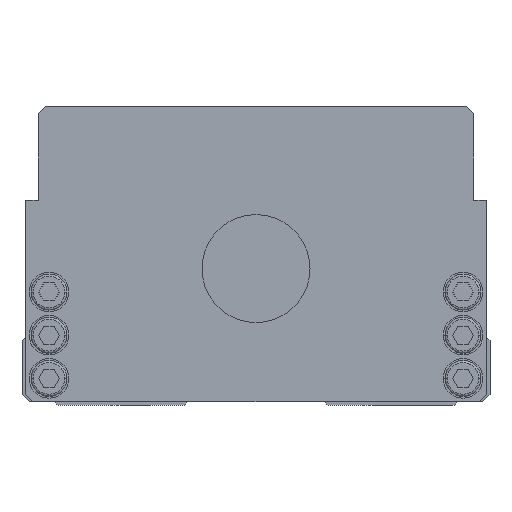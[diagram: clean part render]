
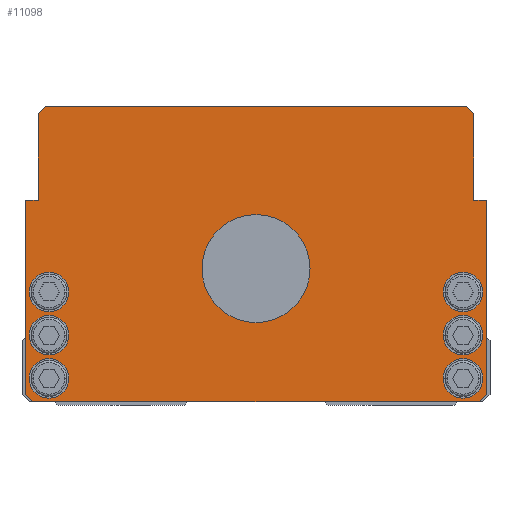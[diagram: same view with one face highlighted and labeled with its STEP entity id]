
A CAD part, front view. The second image highlights one B-rep face of the part: STEP entity #11098.
In plain terms, the highlighted planar face has unit normal (0, -1, 0).
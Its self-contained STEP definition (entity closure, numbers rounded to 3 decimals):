
#4006=VERTEX_POINT('',#11567);
#4216=VERTEX_POINT('',#11804);
#4302=VERTEX_POINT('',#11899);
#4490=VERTEX_POINT('',#12118);
#4580=VERTEX_POINT('',#12221);
#4584=EDGE_CURVE('',#8434,#6682,#12225,.T.);
#4960=EDGE_CURVE('',#8364,#7290,#12638,.T.);
#5350=VERTEX_POINT('',#13074);
#5560=VERTEX_POINT('',#13309);
#5668=EDGE_CURVE('',#7500,#4490,#13429,.T.);
#5854=VERTEX_POINT('',#13640);
#5900=EDGE_CURVE('',#4490,#7500,#13690,.T.);
#6070=EDGE_CURVE('',#6682,#8434,#13885,.T.);
#6076=EDGE_CURVE('',#7244,#6176,#13891,.T.);
#6176=VERTEX_POINT('',#14004);
#6224=VERTEX_POINT('',#14055);
#6258=EDGE_CURVE('',#4216,#5854,#14092,.T.);
#6324=VERTEX_POINT('',#14165);
#6340=EDGE_CURVE('',#6176,#5350,#14183,.T.);
#6426=VERTEX_POINT('',#14278);
#6682=VERTEX_POINT('',#14559);
#6960=VERTEX_POINT('',#14871);
#7244=VERTEX_POINT('',#15178);
#7290=VERTEX_POINT('',#15230);
#7366=EDGE_CURVE('',#6224,#7244,#15312,.T.);
#7390=VERTEX_POINT('',#15338);
#7500=VERTEX_POINT('',#15461);
#7596=EDGE_CURVE('',#5560,#9240,#15564,.T.);
#8236=VERTEX_POINT('',#16278);
#8310=VERTEX_POINT('',#16362);
#8364=VERTEX_POINT('',#16424);
#8374=VERTEX_POINT('',#16437);
#8434=VERTEX_POINT('',#16505);
#8660=EDGE_CURVE('',#9810,#6324,#16762,.T.);
#8930=EDGE_CURVE('',#6960,#7390,#17063,.T.);
#8986=EDGE_CURVE('',#5854,#4216,#17129,.T.);
#9082=EDGE_CURVE('',#4580,#4006,#17232,.T.);
#9106=VERTEX_POINT('',#17261);
#9140=EDGE_CURVE('',#9106,#6426,#17299,.T.);
#9240=VERTEX_POINT('',#17409);
#9296=EDGE_CURVE('',#4302,#8310,#17471,.T.);
#9560=EDGE_CURVE('',#8310,#9810,#17764,.T.);
#9808=EDGE_CURVE('',#7290,#8364,#18044,.T.);
#9810=VERTEX_POINT('',#18046);
#9838=EDGE_CURVE('',#5350,#9106,#18077,.T.);
#9904=EDGE_CURVE('',#6324,#6960,#18154,.T.);
#10130=EDGE_CURVE('',#7390,#6224,#18402,.T.);
#10856=EDGE_CURVE('',#8236,#8374,#19221,.T.);
#11098=ADVANCED_FACE('',(#19493,#19494,#19495,#19496,#19497,#19498,#19499,#19500),#19501,.T.);
#11174=EDGE_CURVE('',#4006,#4580,#19586,.T.);
#11202=EDGE_CURVE('',#9240,#5560,#19617,.T.);
#11280=EDGE_CURVE('',#6426,#4302,#19701,.T.);
#11298=EDGE_CURVE('',#8374,#8236,#19719,.T.);
#11567=CARTESIAN_POINT('',(63.0,0.0,7.5));
#11804=CARTESIAN_POINT('',(52.0,0.0,31.5));
#11899=CARTESIAN_POINT('',(58.5,0.0,83.0));
#12118=CARTESIAN_POINT('',(-63.0,0.0,19.5));
#12221=CARTESIAN_POINT('',(52.0,0.0,7.5));
#12225=CIRCLE('',#20955,5.5);
#12638=CIRCLE('',#21515,5.5);
#13074=CARTESIAN_POINT('',(-60.5,0.0,57.0));
#13309=CARTESIAN_POINT('',(-63.0,0.0,7.5));
#13429=CIRCLE('',#22588,5.5);
#13640=CARTESIAN_POINT('',(63.0,0.0,31.5));
#13690=CIRCLE('',#22956,5.5);
#13885=CIRCLE('',#23239,5.5);
#13891=LINE('',#23247,#23248);
#14004=CARTESIAN_POINT('',(-64.0,0.0,57.0));
#14055=CARTESIAN_POINT('',(-62.0,0.0,1.0));
#14092=CIRCLE('',#23521,5.5);
#14165=CARTESIAN_POINT('',(64.0,0.0,57.0));
#14183=LINE('',#23650,#23651);
#14278=CARTESIAN_POINT('',(-58.5,0.0,83.0));
#14559=CARTESIAN_POINT('',(63.0,0.0,19.5));
#14871=CARTESIAN_POINT('',(64.0,0.0,3.0));
#15178=CARTESIAN_POINT('',(-64.0,0.0,3.0));
#15230=CARTESIAN_POINT('',(-52.0,0.0,31.5));
#15312=LINE('',#25224,#25225);
#15338=CARTESIAN_POINT('',(62.0,0.0,1.0));
#15461=CARTESIAN_POINT('',(-52.0,0.0,19.5));
#15564=CIRCLE('',#25572,5.5);
#16278=CARTESIAN_POINT('',(15.0,0.0,38.0));
#16362=CARTESIAN_POINT('',(60.5,0.0,81.0));
#16424=CARTESIAN_POINT('',(-63.0,0.0,31.5));
#16437=CARTESIAN_POINT('',(-15.0,0.0,38.0));
#16505=CARTESIAN_POINT('',(52.0,0.0,19.5));
#16762=LINE('',#27199,#27200);
#17063=LINE('',#27608,#27609);
#17129=CIRCLE('',#27698,5.5);
#17232=CIRCLE('',#27850,5.5);
#17261=CARTESIAN_POINT('',(-60.5,0.0,81.0));
#17299=LINE('',#27942,#27943);
#17409=CARTESIAN_POINT('',(-52.0,0.0,7.5));
#17471=LINE('',#28180,#28181);
#17764=LINE('',#28573,#28574);
#18044=CIRCLE('',#28956,5.5);
#18046=CARTESIAN_POINT('',(60.5,0.0,57.0));
#18077=LINE('',#28995,#28996);
#18154=LINE('',#29099,#29100);
#18402=LINE('',#29453,#29454);
#19221=CIRCLE('',#30567,15.0);
#19493=FACE_BOUND('',#30944,.T.);
#19494=FACE_BOUND('',#30945,.T.);
#19495=FACE_BOUND('',#30946,.T.);
#19496=FACE_BOUND('',#30947,.T.);
#19497=FACE_BOUND('',#30948,.T.);
#19498=FACE_BOUND('',#30949,.T.);
#19499=FACE_BOUND('',#30950,.T.);
#19500=FACE_OUTER_BOUND('',#30951,.T.);
#19501=PLANE('',#30952);
#19586=CIRCLE('',#31070,5.5);
#19617=CIRCLE('',#31107,5.5);
#19701=LINE('',#31222,#31223);
#19719=CIRCLE('',#31256,15.0);
#20955=AXIS2_PLACEMENT_3D('',#32338,#32339,#32340);
#21515=AXIS2_PLACEMENT_3D('',#32762,#32763,#32764);
#22588=AXIS2_PLACEMENT_3D('',#33712,#33713,#33714);
#22956=AXIS2_PLACEMENT_3D('',#34005,#34006,#34007);
#23239=AXIS2_PLACEMENT_3D('',#34286,#34287,#34288);
#23247=CARTESIAN_POINT('',(-64.0,0.0,57.0));
#23248=VECTOR('',#34292,1.0);
#23521=AXIS2_PLACEMENT_3D('',#34504,#34505,#34506);
#23650=CARTESIAN_POINT('',(-60.5,0.0,57.0));
#23651=VECTOR('',#34601,1.0);
#25224=CARTESIAN_POINT('',(-64.0,0.0,3.0));
#25225=VECTOR('',#35807,1.);
#25572=AXIS2_PLACEMENT_3D('',#36096,#36097,#36098);
#27199=CARTESIAN_POINT('',(64.0,0.0,57.0));
#27200=VECTOR('',#37492,1.0);
#27608=CARTESIAN_POINT('',(62.0,0.0,1.0));
#27609=VECTOR('',#37824,1.);
#27698=AXIS2_PLACEMENT_3D('',#37932,#37933,#37934);
#27850=AXIS2_PLACEMENT_3D('',#38056,#38057,#38058);
#27942=CARTESIAN_POINT('',(-58.5,0.0,83.0));
#27943=VECTOR('',#38142,1.);
#28180=CARTESIAN_POINT('',(60.5,0.0,81.0));
#28181=VECTOR('',#38332,1.);
#28573=CARTESIAN_POINT('',(60.5,0.0,57.0));
#28574=VECTOR('',#38682,1.0);
#28956=AXIS2_PLACEMENT_3D('',#39000,#39001,#39002);
#28995=CARTESIAN_POINT('',(-60.5,0.0,81.0));
#28996=VECTOR('',#39030,1.0);
#29099=CARTESIAN_POINT('',(64.0,0.0,3.0));
#29100=VECTOR('',#39145,1.0);
#29453=CARTESIAN_POINT('',(-62.0,0.0,1.0));
#29454=VECTOR('',#39418,1.0);
#30567=AXIS2_PLACEMENT_3D('',#40397,#40398,#40399);
#30944=EDGE_LOOP('',(#40753,#40754));
#30945=EDGE_LOOP('',(#40755,#40756));
#30946=EDGE_LOOP('',(#40757,#40758));
#30947=EDGE_LOOP('',(#40759,#40760));
#30948=EDGE_LOOP('',(#40761,#40762));
#30949=EDGE_LOOP('',(#40763,#40764));
#30950=EDGE_LOOP('',(#40765,#40766));
#30951=EDGE_LOOP('',(#40767,#40768,#40769,#40770,#40771,#40772,#40773,#40774,#40775,#40776,#40777,#40778));
#30952=AXIS2_PLACEMENT_3D('',#40779,#40780,#40781);
#31070=AXIS2_PLACEMENT_3D('',#40894,#40895,#40896);
#31107=AXIS2_PLACEMENT_3D('',#40926,#40927,#40928);
#31222=CARTESIAN_POINT('',(58.5,0.0,83.0));
#31223=VECTOR('',#40996,1.0);
#31256=AXIS2_PLACEMENT_3D('',#41004,#41005,#41006);
#32338=CARTESIAN_POINT('',(57.5,0.0,19.5));
#32339=DIRECTION('',(-0.0,1.0,0.0));
#32340=DIRECTION('',(1.0,0.0,0.0));
#32762=CARTESIAN_POINT('',(-57.5,0.0,31.5));
#32763=DIRECTION('',(-0.0,1.0,0.0));
#32764=DIRECTION('',(1.0,0.0,0.0));
#33712=CARTESIAN_POINT('',(-57.5,0.0,19.5));
#33713=DIRECTION('',(-0.0,1.0,0.0));
#33714=DIRECTION('',(1.0,0.0,0.0));
#34005=CARTESIAN_POINT('',(-57.5,0.0,19.5));
#34006=DIRECTION('',(-0.0,1.0,0.0));
#34007=DIRECTION('',(1.0,0.0,0.0));
#34286=CARTESIAN_POINT('',(57.5,0.0,19.5));
#34287=DIRECTION('',(-0.0,1.0,0.0));
#34288=DIRECTION('',(1.0,0.0,0.0));
#34292=DIRECTION('',(0.0,0.0,1.0));
#34504=CARTESIAN_POINT('',(57.5,0.0,31.5));
#34505=DIRECTION('',(-0.0,1.0,0.0));
#34506=DIRECTION('',(1.0,0.0,0.0));
#34601=DIRECTION('',(1.0,0.0,0.0));
#35807=DIRECTION('',(-0.707,0.0,0.707));
#36096=CARTESIAN_POINT('',(-57.5,0.0,7.5));
#36097=DIRECTION('',(-0.0,1.0,0.0));
#36098=DIRECTION('',(1.0,0.0,0.0));
#37492=DIRECTION('',(1.0,0.0,0.0));
#37824=DIRECTION('',(-0.707,0.0,-0.707));
#37932=CARTESIAN_POINT('',(57.5,0.0,31.5));
#37933=DIRECTION('',(-0.0,1.0,0.0));
#37934=DIRECTION('',(1.0,0.0,0.0));
#38056=CARTESIAN_POINT('',(57.5,0.0,7.5));
#38057=DIRECTION('',(-0.0,1.0,0.0));
#38058=DIRECTION('',(1.0,0.0,0.0));
#38142=DIRECTION('',(0.707,0.0,0.707));
#38332=DIRECTION('',(0.707,0.0,-0.707));
#38682=DIRECTION('',(-0.0,0.0,-1.0));
#39000=CARTESIAN_POINT('',(-57.5,0.0,31.5));
#39001=DIRECTION('',(-0.0,1.0,0.0));
#39002=DIRECTION('',(1.0,0.0,0.0));
#39030=DIRECTION('',(0.0,0.0,1.0));
#39145=DIRECTION('',(-0.0,0.0,-1.0));
#39418=DIRECTION('',(-1.0,0.0,-0.0));
#40397=CARTESIAN_POINT('',(0.0,0.0,38.0));
#40398=DIRECTION('',(-0.0,1.0,0.0));
#40399=DIRECTION('',(1.0,0.0,0.0));
#40753=ORIENTED_EDGE('',*,*,#10856,.T.);
#40754=ORIENTED_EDGE('',*,*,#11298,.T.);
#40755=ORIENTED_EDGE('',*,*,#8986,.T.);
#40756=ORIENTED_EDGE('',*,*,#6258,.T.);
#40757=ORIENTED_EDGE('',*,*,#6070,.T.);
#40758=ORIENTED_EDGE('',*,*,#4584,.T.);
#40759=ORIENTED_EDGE('',*,*,#11174,.T.);
#40760=ORIENTED_EDGE('',*,*,#9082,.T.);
#40761=ORIENTED_EDGE('',*,*,#9808,.T.);
#40762=ORIENTED_EDGE('',*,*,#4960,.T.);
#40763=ORIENTED_EDGE('',*,*,#5668,.T.);
#40764=ORIENTED_EDGE('',*,*,#5900,.T.);
#40765=ORIENTED_EDGE('',*,*,#11202,.T.);
#40766=ORIENTED_EDGE('',*,*,#7596,.T.);
#40767=ORIENTED_EDGE('',*,*,#7366,.F.);
#40768=ORIENTED_EDGE('',*,*,#10130,.F.);
#40769=ORIENTED_EDGE('',*,*,#8930,.F.);
#40770=ORIENTED_EDGE('',*,*,#9904,.F.);
#40771=ORIENTED_EDGE('',*,*,#8660,.F.);
#40772=ORIENTED_EDGE('',*,*,#9560,.F.);
#40773=ORIENTED_EDGE('',*,*,#9296,.F.);
#40774=ORIENTED_EDGE('',*,*,#11280,.F.);
#40775=ORIENTED_EDGE('',*,*,#9140,.F.);
#40776=ORIENTED_EDGE('',*,*,#9838,.F.);
#40777=ORIENTED_EDGE('',*,*,#6340,.F.);
#40778=ORIENTED_EDGE('',*,*,#6076,.F.);
#40779=CARTESIAN_POINT('',(0.,0.0,41.562));
#40780=DIRECTION('',(0.0,-1.0,0.0));
#40781=DIRECTION('',(1.0,0.0,0.0));
#40894=CARTESIAN_POINT('',(57.5,0.0,7.5));
#40895=DIRECTION('',(-0.0,1.0,0.0));
#40896=DIRECTION('',(1.0,0.0,0.0));
#40926=CARTESIAN_POINT('',(-57.5,0.0,7.5));
#40927=DIRECTION('',(-0.0,1.0,0.0));
#40928=DIRECTION('',(1.0,0.0,0.0));
#40996=DIRECTION('',(1.0,0.0,0.0));
#41004=CARTESIAN_POINT('',(0.0,0.0,38.0));
#41005=DIRECTION('',(-0.0,1.0,0.0));
#41006=DIRECTION('',(1.0,0.0,0.0));
